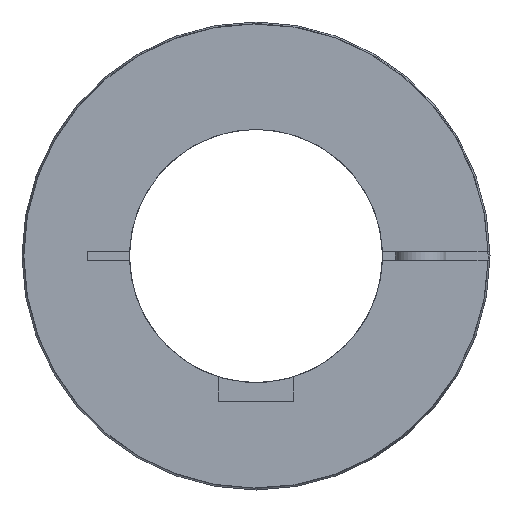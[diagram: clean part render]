
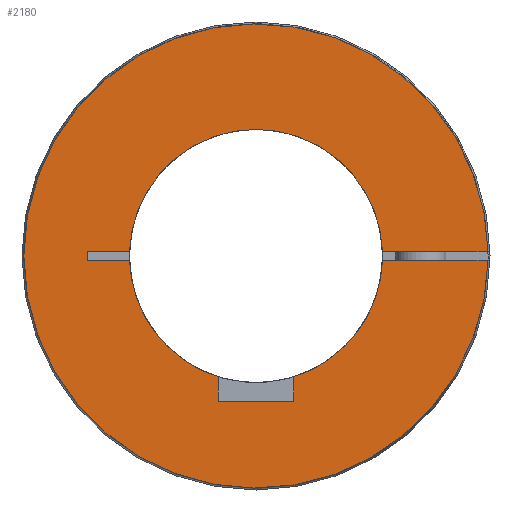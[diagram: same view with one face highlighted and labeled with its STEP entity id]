
A CAD part, left-side view. The second image highlights one B-rep face of the part: STEP entity #2180.
In plain terms, the highlighted planar face has unit normal (-1, 0, 0).
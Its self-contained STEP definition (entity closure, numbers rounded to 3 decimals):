
#78=PLANE('',#2423);
#162=LINE('',#3646,#273);
#165=LINE('',#3652,#276);
#166=LINE('',#3654,#277);
#176=LINE('',#3673,#287);
#179=LINE('',#3683,#290);
#182=LINE('',#3689,#293);
#183=LINE('',#3690,#294);
#184=LINE('',#3692,#295);
#273=VECTOR('',#2881,1.);
#276=VECTOR('',#2886,1.);
#277=VECTOR('',#2889,1.);
#287=VECTOR('',#2907,1000.);
#290=VECTOR('',#2916,1000.);
#293=VECTOR('',#2921,1000.);
#294=VECTOR('',#2922,1000.);
#295=VECTOR('',#2923,1000.);
#412=FACE_OUTER_BOUND('',#542,.T.);
#542=EDGE_LOOP('',(#1618,#1619,#1620,#1621,#1622,#1623,#1624,#1625,#1626,
#1627,#1628,#1629));
#777=CIRCLE('',#2407,30.);
#779=CIRCLE('',#2409,30.);
#780=CIRCLE('',#2411,30.);
#784=CIRCLE('',#2424,55.);
#977=VERTEX_POINT('',#3619);
#978=VERTEX_POINT('',#3621);
#981=VERTEX_POINT('',#3627);
#982=VERTEX_POINT('',#3629);
#983=VERTEX_POINT('',#3633);
#984=VERTEX_POINT('',#3634);
#988=VERTEX_POINT('',#3644);
#990=VERTEX_POINT('',#3650);
#995=VERTEX_POINT('',#3672);
#999=VERTEX_POINT('',#3682);
#1001=VERTEX_POINT('',#3688);
#1002=VERTEX_POINT('',#3691);
#1232=EDGE_CURVE('',#978,#977,#777,.T.);
#1236=EDGE_CURVE('',#982,#981,#779,.T.);
#1238=EDGE_CURVE('',#983,#984,#780,.T.);
#1244=EDGE_CURVE('',#981,#988,#162,.T.);
#1247=EDGE_CURVE('',#988,#990,#165,.T.);
#1248=EDGE_CURVE('',#990,#978,#166,.T.);
#1258=EDGE_CURVE('',#982,#995,#176,.T.);
#1263=EDGE_CURVE('',#999,#983,#179,.T.);
#1266=EDGE_CURVE('',#1001,#977,#182,.T.);
#1267=EDGE_CURVE('',#999,#1001,#183,.T.);
#1268=EDGE_CURVE('',#984,#1002,#184,.T.);
#1269=EDGE_CURVE('',#1002,#995,#784,.T.);
#1618=ORIENTED_EDGE('',*,*,#1236,.T.);
#1619=ORIENTED_EDGE('',*,*,#1244,.T.);
#1620=ORIENTED_EDGE('',*,*,#1247,.T.);
#1621=ORIENTED_EDGE('',*,*,#1248,.T.);
#1622=ORIENTED_EDGE('',*,*,#1232,.T.);
#1623=ORIENTED_EDGE('',*,*,#1266,.F.);
#1624=ORIENTED_EDGE('',*,*,#1267,.F.);
#1625=ORIENTED_EDGE('',*,*,#1263,.T.);
#1626=ORIENTED_EDGE('',*,*,#1238,.T.);
#1627=ORIENTED_EDGE('',*,*,#1268,.T.);
#1628=ORIENTED_EDGE('',*,*,#1269,.T.);
#1629=ORIENTED_EDGE('',*,*,#1258,.F.);
#2180=ADVANCED_FACE('',(#412),#78,.T.);
#2407=AXIS2_PLACEMENT_3D('',#3622,#2860,#2861);
#2409=AXIS2_PLACEMENT_3D('',#3630,#2866,#2867);
#2411=AXIS2_PLACEMENT_3D('',#3635,#2871,#2872);
#2423=AXIS2_PLACEMENT_3D('',#3687,#2919,#2920);
#2424=AXIS2_PLACEMENT_3D('',#3693,#2924,#2925);
#2860=DIRECTION('center_axis',(1.,0.,0.));
#2861=DIRECTION('ref_axis',(0.,0.,-1.));
#2866=DIRECTION('center_axis',(1.,0.,0.));
#2867=DIRECTION('ref_axis',(0.,0.,-1.));
#2871=DIRECTION('center_axis',(1.,0.,0.));
#2872=DIRECTION('ref_axis',(0.,0.,-1.));
#2881=DIRECTION('',(0.,0.,-1.));
#2886=DIRECTION('',(0.,1.,0.));
#2889=DIRECTION('',(0.,0.,1.));
#2907=DIRECTION('',(0.,-1.,0.));
#2916=DIRECTION('',(0.,-1.,0.));
#2919=DIRECTION('center_axis',(-1.,0.,0.));
#2920=DIRECTION('ref_axis',(0.,1.,0.));
#2921=DIRECTION('',(0.,-1.,0.));
#2922=DIRECTION('',(0.,0.,-1.));
#2923=DIRECTION('',(0.,-1.,0.));
#2924=DIRECTION('center_axis',(-1.,0.,0.));
#2925=DIRECTION('ref_axis',(0.,1.,0.));
#3619=CARTESIAN_POINT('',(0.,29.983,-1.));
#3621=CARTESIAN_POINT('',(0.,9.,-28.618));
#3622=CARTESIAN_POINT('Origin',(0.,0.,0.));
#3627=CARTESIAN_POINT('',(0.,-9.,-28.618));
#3629=CARTESIAN_POINT('',(0.,-29.983,-1.));
#3630=CARTESIAN_POINT('Origin',(0.,0.,0.));
#3633=CARTESIAN_POINT('',(0.,29.983,1.));
#3634=CARTESIAN_POINT('',(0.,-29.983,1.));
#3635=CARTESIAN_POINT('Origin',(0.,0.,0.));
#3644=CARTESIAN_POINT('',(0.,-9.,-34.4));
#3646=CARTESIAN_POINT('',(0.,-9.,-14.6));
#3650=CARTESIAN_POINT('',(0.,9.,-34.4));
#3652=CARTESIAN_POINT('',(0.,0.,-34.4));
#3654=CARTESIAN_POINT('',(0.,9.,-14.6));
#3672=CARTESIAN_POINT('',(0.,-54.991,-1.));
#3673=CARTESIAN_POINT('',(0.,40.,-1.));
#3682=CARTESIAN_POINT('',(0.,40.,1.));
#3683=CARTESIAN_POINT('',(0.,40.,1.));
#3687=CARTESIAN_POINT('Origin',(0.,0.,-12.));
#3688=CARTESIAN_POINT('',(0.,40.,-1.));
#3689=CARTESIAN_POINT('',(0.,40.,-1.));
#3690=CARTESIAN_POINT('',(0.,40.,1.));
#3691=CARTESIAN_POINT('',(0.,-54.991,1.));
#3692=CARTESIAN_POINT('',(0.,40.,1.));
#3693=CARTESIAN_POINT('Origin',(0.,0.,0.));
